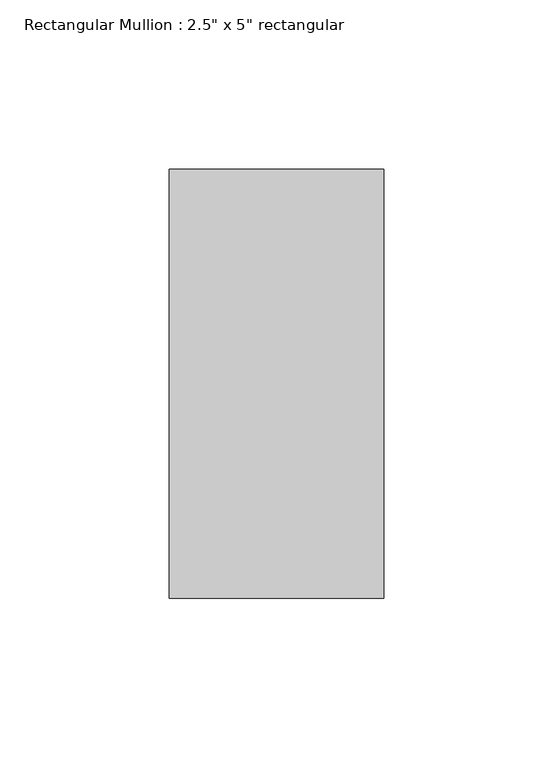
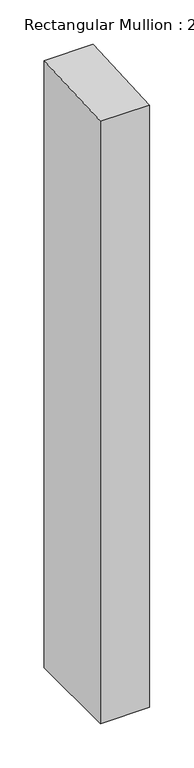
"""IFC4 building model written with IfcOpenShell, lengths in millimetres: member geometry."""

from ifc_helpers import new_model, si_unit, frame, origin, place, context, project, spatial, polyline, outline, extrude, source, transform, mapped, element, save


def member_9bdda2ec(model_context):
    return source(origin(), model_context, "Body", "SweptSolid", [
        extrude(outline(polyline([(-63.5, -3.1625842), (63.5, 3.1625842), (63.5, -830.7192247), (-63.5, -830.7192247), (-63.5, -3.1625842)])), frame((-63.5, 0.0, 0.0), z_axis=(1.0, 0.0, 0.0), x_axis=(0.0, 1.0, 0.0)), (0.0, 0.0, 1.0), 63.5),
    ])


if __name__ == "__main__":
    model = new_model("IFC4")
    model_context = context("Model", 3, world=origin())
    ifc_project = project(units=[si_unit("LENGTHUNIT", "METRE", prefix="MILLI")], contexts=[model_context])
    site = spatial("IfcSite", under=ifc_project)
    building = spatial("IfcBuilding", under=site)
    placement = place(None, origin())
    member_shape = member_9bdda2ec(model_context)
    element("IfcMember", 1, ObjectType="Rectangular Mullion : 2.5\" x 5\" rectangular", at=placement, inside=building, context=model_context, shape_type="MappedRepresentation", body=[
        mapped(member_shape, transform((0.0, 0.0, 0.0), x_axis=(1.0, 0.0, 0.0), y_axis=(0.0, 1.0, 0.0), z_axis=(0.0, 0.0, 1.0))),
    ])
    save(model, "model.ifc")
